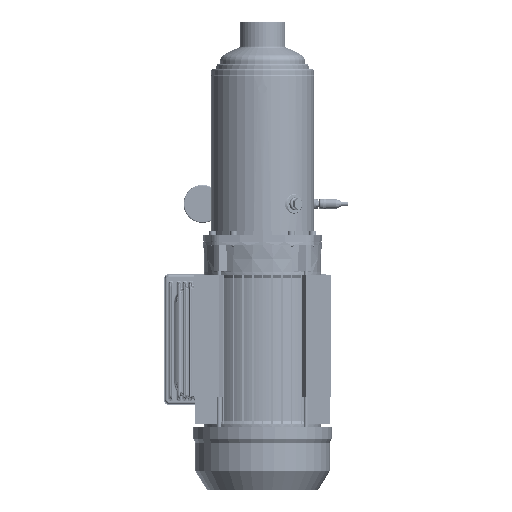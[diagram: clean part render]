
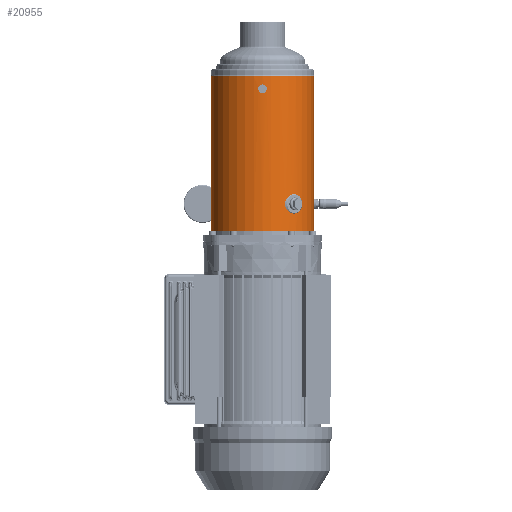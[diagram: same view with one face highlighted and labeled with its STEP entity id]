
A CAD part, front view. The second image highlights one B-rep face of the part: STEP entity #20955.
In plain terms, the highlighted cylindrical face has radius 72 mm (diameter 144 mm), a partial arc.
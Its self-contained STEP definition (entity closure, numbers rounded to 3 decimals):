
#18018=CARTESIAN_POINT('',(0.,8.4,0.));
#18019=DIRECTION('',(0.,1.,0.));
#18020=DIRECTION('',(0.,0.,-1.));
#18021=AXIS2_PLACEMENT_3D('',#18018,#18019,#18020);
#18098=DIRECTION('',(0.,1.,0.));
#18099=VECTOR('',#18098,215.614);
#18100=CARTESIAN_POINT('',(0.,8.4,-72.));
#18101=LINE('',#18100,#18099);
#18105=DIRECTION('',(0.,-1.,0.));
#18106=VECTOR('',#18105,215.614);
#18107=CARTESIAN_POINT('',(0.,224.014,72.));
#18108=LINE('',#18107,#18106);
#18112=CARTESIAN_POINT('',(-64.772,46.,
31.441));
#18113=CARTESIAN_POINT('',(-64.772,44.708,
31.441));
#18114=CARTESIAN_POINT('',(-64.595,42.186,
31.811));
#18115=CARTESIAN_POINT('',(-63.701,38.395,
33.594));
#18116=CARTESIAN_POINT('',(-62.073,35.171,
36.554));
#18117=CARTESIAN_POINT('',(-59.704,32.999,
40.338));
#18118=CARTESIAN_POINT('',(-56.781,32.25,
44.367));
#18119=CARTESIAN_POINT('',(-53.578,33.001,
48.177));
#18120=CARTESIAN_POINT('',(-50.481,35.175,
51.39));
#18121=CARTESIAN_POINT('',(-48.004,38.4,
53.684));
#18122=CARTESIAN_POINT('',(-46.491,42.194,
54.982));
#18123=CARTESIAN_POINT('',(-46.177,44.711,
55.242));
#18124=CARTESIAN_POINT('',(-46.177,46.,
55.242));
#18129=CARTESIAN_POINT('',(-46.177,46.,
55.242));
#18130=CARTESIAN_POINT('',(-46.177,47.292,
55.242));
#18131=CARTESIAN_POINT('',(-46.493,49.814,
54.98));
#18132=CARTESIAN_POINT('',(-48.007,53.605,
53.681));
#18133=CARTESIAN_POINT('',(-50.485,56.829,
51.386));
#18134=CARTESIAN_POINT('',(-53.583,59.001,
48.172));
#18135=CARTESIAN_POINT('',(-56.786,59.75,
44.361));
#18136=CARTESIAN_POINT('',(-59.708,58.999,
40.332));
#18137=CARTESIAN_POINT('',(-62.076,56.825,
36.549));
#18138=CARTESIAN_POINT('',(-63.702,53.6,
33.591));
#18139=CARTESIAN_POINT('',(-64.596,49.806,
31.809));
#18140=CARTESIAN_POINT('',(-64.772,47.289,
31.441));
#18141=CARTESIAN_POINT('',(-64.772,46.,
31.441));
#18146=CARTESIAN_POINT('',(-72.,212.4,0.));
#18147=CARTESIAN_POINT('',(-72.,212.4,-0.812));
#18148=CARTESIAN_POINT('',(-71.974,212.098,
-2.312));
#18149=CARTESIAN_POINT('',(-71.875,210.761,
-4.353));
#18150=CARTESIAN_POINT('',(-71.777,208.758,
-5.685));
#18151=CARTESIAN_POINT('',(-71.736,206.399,
-6.158));
#18152=CARTESIAN_POINT('',(-71.777,204.039,
-5.684));
#18153=CARTESIAN_POINT('',(-71.875,202.037,
-4.352));
#18154=CARTESIAN_POINT('',(-71.974,200.701,
-2.309));
#18155=CARTESIAN_POINT('',(-72.,200.4,-0.811));
#18156=CARTESIAN_POINT('',(-72.,200.4,0.));
#18161=CARTESIAN_POINT('',(-72.,200.4,0.));
#18162=CARTESIAN_POINT('',(-72.,200.4,0.812));
#18163=CARTESIAN_POINT('',(-71.974,200.702,
2.312));
#18164=CARTESIAN_POINT('',(-71.875,202.039,
4.353));
#18165=CARTESIAN_POINT('',(-71.777,204.042,
5.685));
#18166=CARTESIAN_POINT('',(-71.736,206.401,
6.158));
#18167=CARTESIAN_POINT('',(-71.777,208.761,
5.684));
#18168=CARTESIAN_POINT('',(-71.875,210.763,
4.352));
#18169=CARTESIAN_POINT('',(-71.974,212.099,
2.309));
#18170=CARTESIAN_POINT('',(-72.,212.4,0.811));
#18171=CARTESIAN_POINT('',(-72.,212.4,0.));
#18184=CARTESIAN_POINT('',(0.,224.014,0.));
#18185=DIRECTION('',(0.,-1.,0.));
#18186=DIRECTION('',(0.,0.,1.));
#18187=AXIS2_PLACEMENT_3D('',#18184,#18185,#18186);
#20198=CARTESIAN_POINT('',(0.,8.4,72.));
#20199=CARTESIAN_POINT('',(0.,8.4,-72.));
#20200=VERTEX_POINT('',#20198);
#20201=VERTEX_POINT('',#20199);
#20202=CARTESIAN_POINT('',(0.,224.014,-72.));
#20203=VERTEX_POINT('',#20202);
#20204=CARTESIAN_POINT('',(0.,224.014,72.));
#20205=VERTEX_POINT('',#20204);
#20210=VERTEX_POINT('',#18112);
#20211=VERTEX_POINT('',#18124);
#20212=VERTEX_POINT('',#18146);
#20213=VERTEX_POINT('',#18156);
#20931=CARTESIAN_POINT('',(0.,228.327,0.));
#20932=DIRECTION('',(0.,-1.,0.));
#20933=DIRECTION('',(0.,0.,1.));
#20934=AXIS2_PLACEMENT_3D('',#20931,#20932,#20933);
#20935=CYLINDRICAL_SURFACE('',#20934,72.);
#20936=ORIENTED_EDGE('',*,*,#20909,.T.);
#20938=ORIENTED_EDGE('',*,*,#20937,.F.);
#20939=ORIENTED_EDGE('',*,*,#20912,.T.);
#20940=ORIENTED_EDGE('',*,*,#20899,.F.);
#20941=EDGE_LOOP('',(#20936,#20938,#20939,#20940));
#20942=FACE_OUTER_BOUND('',#20941,.F.);
#20944=ORIENTED_EDGE('',*,*,#20943,.T.);
#20946=ORIENTED_EDGE('',*,*,#20945,.T.);
#20947=EDGE_LOOP('',(#20944,#20946));
#20948=FACE_BOUND('',#20947,.F.);
#20950=ORIENTED_EDGE('',*,*,#20949,.T.);
#20952=ORIENTED_EDGE('',*,*,#20951,.T.);
#20953=EDGE_LOOP('',(#20950,#20952));
#20954=FACE_BOUND('',#20953,.F.);
#18022=CIRCLE('',#18021,72.);
#18125=B_SPLINE_CURVE_WITH_KNOTS('',3,(#18112,#18113,#18114,#18115,#18116,
#18117,#18118,#18119,#18120,#18121,#18122,#18123,#18124),.UNSPECIFIED.,.F.,.F.,(
4,1,1,1,1,1,1,1,1,1,4),(0.,0.1,0.2,0.3,0.4,0.5,0.6,0.7,0.8,
0.9,1.),.UNSPECIFIED.);
#18142=B_SPLINE_CURVE_WITH_KNOTS('',3,(#18129,#18130,#18131,#18132,#18133,
#18134,#18135,#18136,#18137,#18138,#18139,#18140,#18141),.UNSPECIFIED.,.F.,.F.,(
4,1,1,1,1,1,1,1,1,1,4),(0.,0.1,0.2,0.3,0.4,0.5,0.6,0.7,0.8,
0.9,1.),.UNSPECIFIED.);
#18157=B_SPLINE_CURVE_WITH_KNOTS('',3,(#18146,#18147,#18148,#18149,#18150,
#18151,#18152,#18153,#18154,#18155,#18156),.UNSPECIFIED.,.F.,.F.,(4,1,1,1,1,1,1,
1,4),(0.,0.125,0.25,0.375,0.5,0.625,0.75,0.875,1.),
.UNSPECIFIED.);
#18172=B_SPLINE_CURVE_WITH_KNOTS('',3,(#18161,#18162,#18163,#18164,#18165,
#18166,#18167,#18168,#18169,#18170,#18171),.UNSPECIFIED.,.F.,.F.,(4,1,1,1,1,1,1,
1,4),(0.,0.125,0.25,0.375,0.5,0.625,0.75,0.875,1.),
.UNSPECIFIED.);
#18188=CIRCLE('',#18187,72.);
#20899=EDGE_CURVE('',#20201,#20200,#18022,.T.);
#20909=EDGE_CURVE('',#20201,#20203,#18101,.T.);
#20912=EDGE_CURVE('',#20205,#20200,#18108,.T.);
#20937=EDGE_CURVE('',#20205,#20203,#18188,.T.);
#20943=EDGE_CURVE('',#20210,#20211,#18125,.T.);
#20945=EDGE_CURVE('',#20211,#20210,#18142,.T.);
#20949=EDGE_CURVE('',#20212,#20213,#18157,.T.);
#20951=EDGE_CURVE('',#20213,#20212,#18172,.T.);
#20955=ADVANCED_FACE('',(#20942,#20948,#20954),#20935,.T.);
